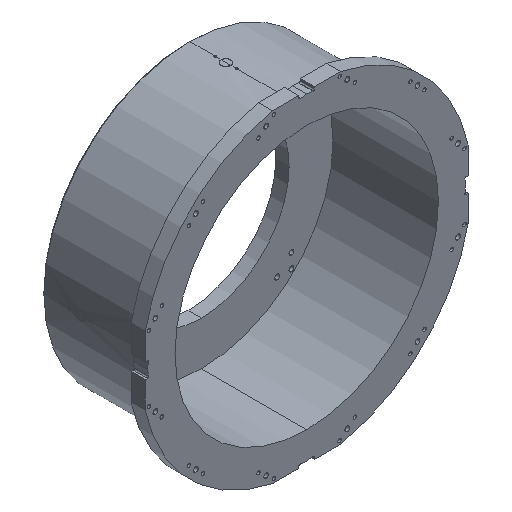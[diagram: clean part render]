
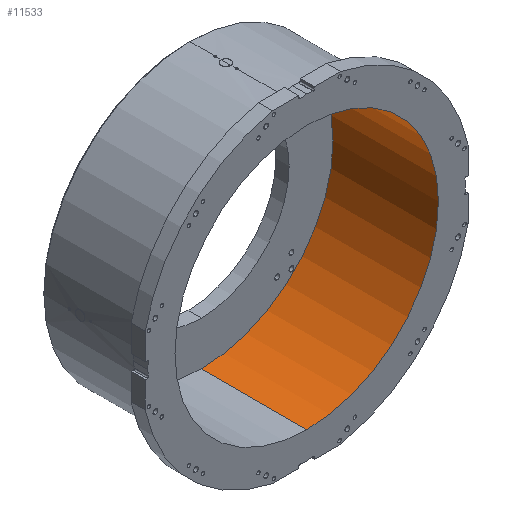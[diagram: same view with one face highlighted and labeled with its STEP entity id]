
A CAD part, isometric view. The second image highlights one B-rep face of the part: STEP entity #11533.
In plain terms, the highlighted cylindrical face has radius 555 mm (diameter 1110 mm), a partial arc.
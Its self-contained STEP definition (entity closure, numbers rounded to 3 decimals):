
#179 = AXIS2_PLACEMENT_3D ( 'NONE', #11353, #6075, #10705 ) ;
#571 = AXIS2_PLACEMENT_3D ( 'NONE', #5484, #5541, #10000 ) ;
#763 = VECTOR ( 'NONE', #7337, 1000. ) ;
#885 = CARTESIAN_POINT ( 'NONE',  ( 0., 0., -555. ) ) ;
#1629 = ORIENTED_EDGE ( 'NONE', *, *, #8419, .T. ) ;
#1702 = VERTEX_POINT ( 'NONE', #10580 ) ;
#1740 = CIRCLE ( 'NONE', #8431, 555. ) ;
#1987 = CARTESIAN_POINT ( 'NONE',  ( 0., 444., -555. ) ) ;
#2116 = DIRECTION ( 'NONE',  ( 0., 1., 0. ) ) ;
#2352 = CARTESIAN_POINT ( 'NONE',  ( 0., 444., 0. ) ) ;
#2459 = ORIENTED_EDGE ( 'NONE', *, *, #4954, .T. ) ;
#2823 = LINE ( 'NONE', #885, #763 ) ;
#3488 = ORIENTED_EDGE ( 'NONE', *, *, #9660, .F. ) ;
#3540 = EDGE_CURVE ( 'NONE', #5452, #3564, #2823, .T. ) ;
#3564 = VERTEX_POINT ( 'NONE', #1987 ) ;
#4123 = CYLINDRICAL_SURFACE ( 'NONE', #179, 555. ) ;
#4625 = EDGE_LOOP ( 'NONE', ( #6387, #3488, #1629, #2459 ) ) ;
#4954 = EDGE_CURVE ( 'NONE', #7424, #3564, #1740, .T. ) ;
#5243 = CARTESIAN_POINT ( 'NONE',  ( 0., 444., 555. ) ) ;
#5452 = VERTEX_POINT ( 'NONE', #6197 ) ;
#5484 = CARTESIAN_POINT ( 'NONE',  ( 0., 0., 0. ) ) ;
#5541 = DIRECTION ( 'NONE',  ( 0., 1., 0. ) ) ;
#5706 = CARTESIAN_POINT ( 'NONE',  ( 0., 0., 555. ) ) ;
#5707 = CIRCLE ( 'NONE', #571, 555. ) ;
#6075 = DIRECTION ( 'NONE',  ( 0., 1., 0. ) ) ;
#6197 = CARTESIAN_POINT ( 'NONE',  ( 0., 0., -555. ) ) ;
#6387 = ORIENTED_EDGE ( 'NONE', *, *, #3540, .F. ) ;
#7337 = DIRECTION ( 'NONE',  ( 0., 1., 0. ) ) ;
#7424 = VERTEX_POINT ( 'NONE', #5243 ) ;
#7587 = VECTOR ( 'NONE', #2116, 1000. ) ;
#8271 = DIRECTION ( 'NONE',  ( 0., 0., 1. ) ) ;
#8419 = EDGE_CURVE ( 'NONE', #1702, #7424, #10209, .T. ) ;
#8431 = AXIS2_PLACEMENT_3D ( 'NONE', #2352, #11635, #8271 ) ;
#8656 = FACE_OUTER_BOUND ( 'NONE', #4625, .T. ) ;
#9660 = EDGE_CURVE ( 'NONE', #1702, #5452, #5707, .T. ) ;
#10000 = DIRECTION ( 'NONE',  ( 0., 0., 1. ) ) ;
#10209 = LINE ( 'NONE', #5706, #7587 ) ;
#10580 = CARTESIAN_POINT ( 'NONE',  ( 0., 0., 555. ) ) ;
#10705 = DIRECTION ( 'NONE',  ( 0., 0., 1. ) ) ;
#11353 = CARTESIAN_POINT ( 'NONE',  ( 0., 0., 0. ) ) ;
#11533 = ADVANCED_FACE ( 'NONE', ( #8656 ), #4123, .F. ) ;
#11635 = DIRECTION ( 'NONE',  ( 0., 1., 0. ) ) ;
